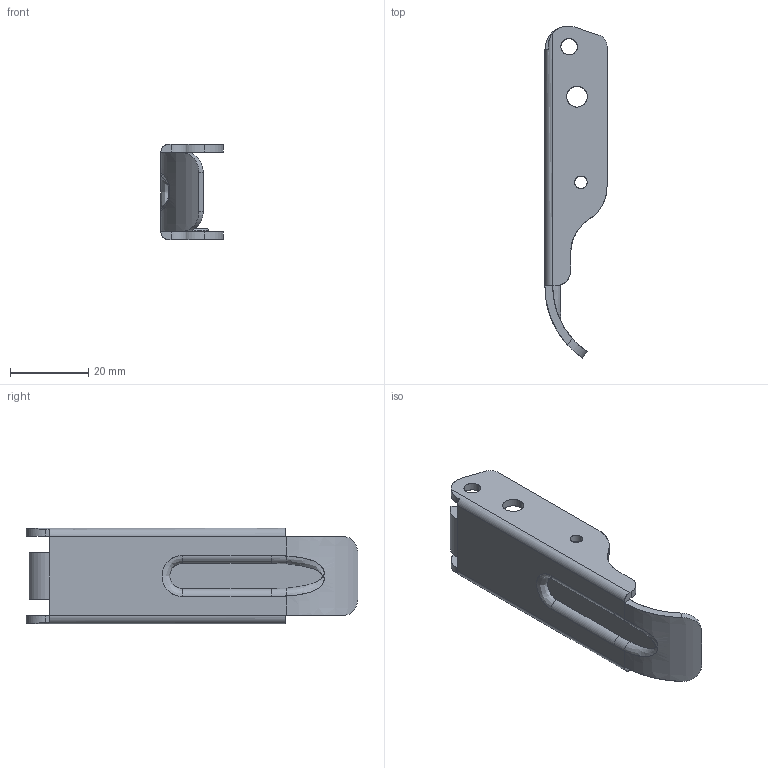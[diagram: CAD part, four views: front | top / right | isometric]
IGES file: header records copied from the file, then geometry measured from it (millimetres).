
Start section: SolidWorks IGES FILE using analytic representation for surfaces
Global section: file name: C:\Documents and Settings\lecoutey\Bureau\GP 29\29.010.10.IGS; native system: SolidWorks 2004 by SolidWorks Corporation; preprocessor: Version 5.3; author: lecoutey; date: 050329.141230; units: millimetre
Bounding box: 15.9 x 84.96 x 24.4 mm (x, y, z)
Surface area: 7492 mm2 (no closed solid volume)
Topology: 0 solids, 0 shells, 79 faces, 1448 edges, 1448 vertices
Faces by surface type: bspline 43, revolution 36
